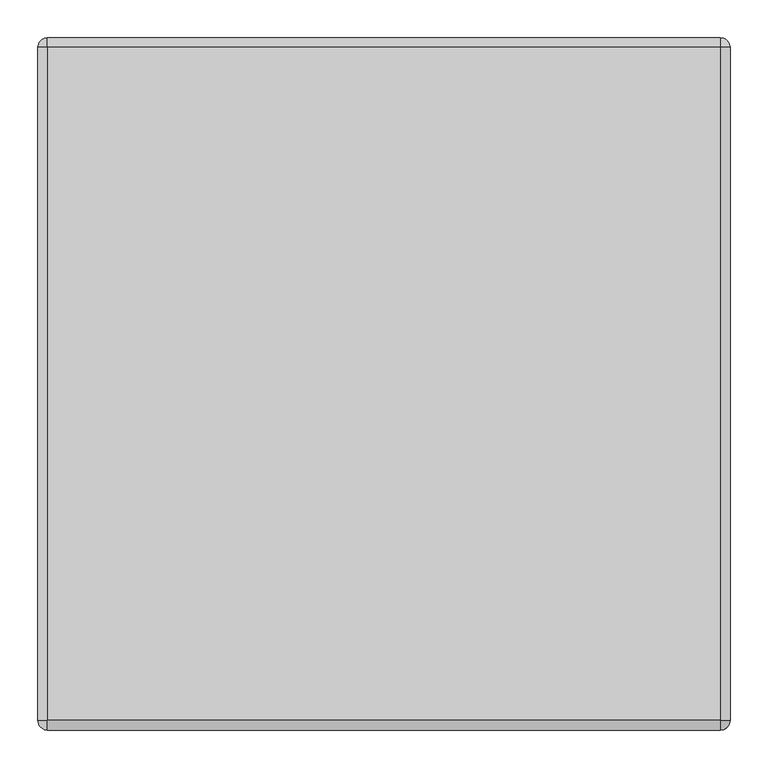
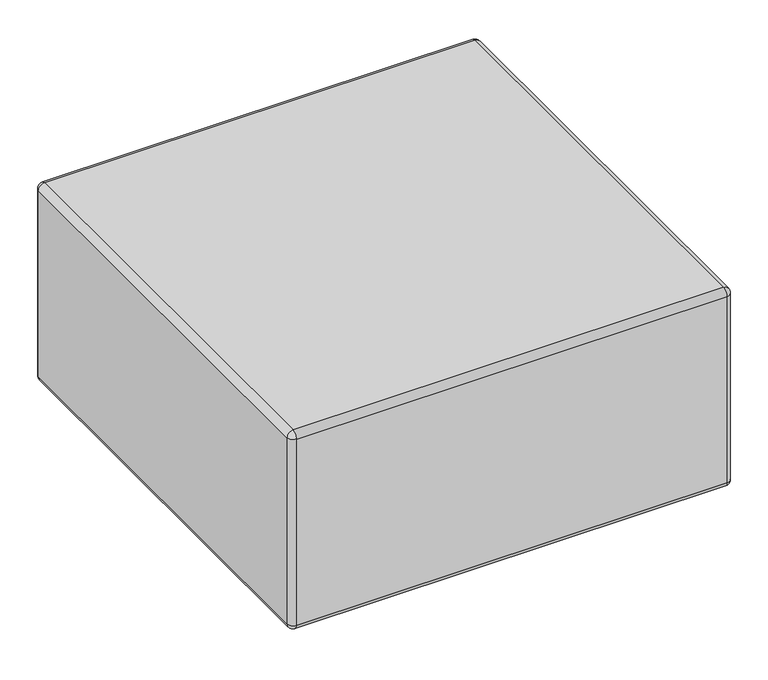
"""IFC4 building model written with IfcOpenShell, lengths in millimetres: furniture geometry."""

from ifc_helpers import new_model, si_unit, point, frame, origin, place, context, project, spatial, polyline, circle_curve, ellipse_curve, trimmed, source, transform, mapped, element, save
from ifc_brep_helpers import plane_surface, cylinder_surface, revolved_surface, advanced_brep


def furniture_133fbe17(model_context):
    return source(origin(), model_context, "Body", "AdvancedBrep", [
        advanced_brep(
        [(-356.8604105, -365.125, 25.4), (-373.3895895, -365.125, 25.4), (-365.125, -365.125, 25.4), (-356.8604105, -365.125, 14.2843611), (-373.3895895, -365.125, 14.2843611), (-358.4623646, -365.125, 14.2843611), (-371.7876354, -365.125, 14.2843611), (-358.4623646, -365.125, 12.7064551), (-371.7876354, -365.125, 12.7064551), (-356.8609329, -365.125, 12.7064551), (-373.3890671, -365.125, 12.7064551), (-347.6758785, -365.125, 3.1950529), (-382.5741215, -365.125, 3.1950529), (-347.6758785, -365.125, 0.0), (-382.5741215, -365.125, 0.0), (-365.125, -365.125, 0.0)],
        [
            (0, 1, circle_curve(frame((-365.125, -365.125, 25.4), z_axis=(0.0, 0.0, 1.0), x_axis=(-1.0, 0.0, 0.0)), 8.2645895)),
            (1, 2),
            (2, 0),
            (1, 0, circle_curve(frame((-365.125, -365.125, 25.4), z_axis=(0.0, 0.0, 1.0), x_axis=(-1.0, 0.0, 0.0)), 8.2645895)),
            (3, 4, circle_curve(frame((-365.125, -365.125, 14.2843611), z_axis=(0.0, 0.0, 1.0), x_axis=(-1.0, 0.0, 0.0)), 8.2645895)),
            (4, 1),
            (0, 3),
            (4, 3, circle_curve(frame((-365.125, -365.125, 14.2843611), z_axis=(0.0, 0.0, 1.0), x_axis=(-1.0, 0.0, 0.0)), 8.2645895)),
            (5, 6, circle_curve(frame((-365.125, -365.125, 14.2843611), z_axis=(0.0, 0.0, 1.0), x_axis=(-1.0, 0.0, 0.0)), 6.6626354)),
            (6, 4),
            (3, 5),
            (6, 5, circle_curve(frame((-365.125, -365.125, 14.2843611), z_axis=(0.0, 0.0, 1.0), x_axis=(-1.0, 0.0, 0.0)), 6.6626354)),
            (7, 8, circle_curve(frame((-365.125, -365.125, 12.7064551), z_axis=(0.0, 0.0, 1.0), x_axis=(-1.0, 0.0, 0.0)), 6.6626354)),
            (8, 6),
            (5, 7),
            (8, 7, circle_curve(frame((-365.125, -365.125, 12.7064551), z_axis=(0.0, 0.0, 1.0), x_axis=(-1.0, 0.0, 0.0)), 6.6626354)),
            (9, 10, circle_curve(frame((-365.125, -365.125, 12.7064551), z_axis=(0.0, 0.0, 1.0), x_axis=(-1.0, 0.0, 0.0)), 8.2640671)),
            (10, 8),
            (7, 9),
            (10, 9, circle_curve(frame((-365.125, -365.125, 12.7064551), z_axis=(0.0, 0.0, 1.0), x_axis=(-1.0, 0.0, 0.0)), 8.2640671)),
            (11, 12, circle_curve(frame((-365.125, -365.125, 3.1950529), z_axis=(0.0, 0.0, 1.0), x_axis=(-1.0, 0.0, 0.0)), 17.4491215)),
            (12, 10),
            (9, 11),
            (12, 11, circle_curve(frame((-365.125, -365.125, 3.1950529), z_axis=(0.0, 0.0, 1.0), x_axis=(-1.0, 0.0, 0.0)), 17.4491215)),
            (13, 14, circle_curve(frame((-365.125, -365.125, 0.0), z_axis=(0.0, 0.0, 1.0), x_axis=(-1.0, 0.0, 0.0)), 17.4491215)),
            (14, 12),
            (11, 13),
            (14, 13, circle_curve(frame((-365.125, -365.125, 0.0), z_axis=(0.0, 0.0, 1.0), x_axis=(-1.0, 0.0, 0.0)), 17.4491215)),
            (15, 14),
            (13, 15),
        ],
        [
            plane_surface(frame((-365.125, -365.125, 25.4), z_axis=(0.0, 0.0, 1.0), x_axis=(-1.0, 0.0, 0.0))),
            cylinder_surface(frame((-365.125, -365.125, 33.820929), z_axis=(0.0, 0.0, -1.0), x_axis=(-1.0, 0.0, 0.0)), 8.2645895),
            plane_surface(frame((-365.125, -365.125, 14.2843611), z_axis=(0.0, 0.0, -1.0), x_axis=(-1.0, 0.0, 0.0))),
            cylinder_surface(frame((-365.125, -365.125, 33.820929), z_axis=(0.0, 0.0, -1.0), x_axis=(-1.0, 0.0, 0.0)), 6.6626354),
            plane_surface(frame((-365.125, -365.125, 12.7064551), z_axis=(0.0, 0.0, 1.0), x_axis=(-1.0, 0.0, 0.0))),
            revolved_surface(polyline([(-373.3890671, -365.125, 12.7064551), (-382.5741215, -365.125, 3.1950529)]), (-365.125, -365.125, 33.820929), (0.0, 0.0, -1.0)),
            cylinder_surface(frame((-365.125, -365.125, 33.820929), z_axis=(0.0, 0.0, -1.0), x_axis=(-1.0, 0.0, 0.0)), 17.4491215),
            plane_surface(frame((-365.125, -365.125, 0.0), z_axis=(0.0, 0.0, -1.0), x_axis=(-1.0, 0.0, 0.0))),
        ],
        [
            (0, [[1, 2, 3]]),
            (0, [[4, -3, -2]]),
            (1, [[5, 6, -1, 7]]),
            (1, [[8, -7, -4, -6]]),
            (2, [[9, 10, -5, 11]]),
            (2, [[12, -11, -8, -10]]),
            (3, [[13, 14, -9, 15]]),
            (3, [[16, -15, -12, -14]]),
            (4, [[17, 18, -13, 19]]),
            (4, [[20, -19, -16, -18]]),
            (5, [[21, 22, -17, 23]]),
            (5, [[24, -23, -20, -22]]),
            (6, [[25, 26, -21, 27]]),
            (6, [[28, -27, -24, -26]]),
            (7, [[29, -25, 30]]),
            (7, [[-30, -28, -29]]),
        ],
    ),
        advanced_brep(
        [(-457.2, 444.5, 444.5), (-457.2, -444.5, 444.5), (-444.5, -444.5, 457.2), (-444.5, 444.5, 457.2), (-457.2, 444.5, 38.1), (-457.2, -444.5, 38.1), (-444.5, 444.5, 25.4), (-444.5, -444.5, 25.4), (-444.5, -457.2, 444.5), (444.5, -457.2, 444.5), (444.5, -444.5, 457.2), (-444.5, -457.2, 38.1), (444.5, -457.2, 38.1), (444.5, -444.5, 25.4), (444.5, 444.5, 457.2), (444.5, 444.5, 25.4), (444.5, 457.2, 444.5), (-444.5, 457.2, 444.5), (444.5, 457.2, 38.1), (-444.5, 457.2, 38.1), (457.2, -444.5, 444.5), (457.2, 444.5, 444.5), (457.2, -444.5, 38.1), (457.2, 444.5, 38.1)],
        [
            (0, 1),
            (1, 2, circle_curve(frame((-444.5, -444.5, 444.5), z_axis=(0.0, 1.0, 0.0), x_axis=(-1.0, 0.0, 0.0)), 12.7)),
            (2, 3),
            (3, 0, circle_curve(frame((-444.5, 444.5, 444.5), z_axis=(0.0, -1.0, 0.0), x_axis=(-1.0, 0.0, 0.0)), 12.7)),
            (0, 4),
            (4, 5),
            (5, 1),
            (4, 6, circle_curve(frame((-444.5, 444.5, 38.1), z_axis=(0.0, -1.0, 0.0), x_axis=(-1.0, 0.0, 0.0)), 12.7)),
            (6, 7),
            (7, 5, circle_curve(frame((-444.5, -444.5, 38.1), z_axis=(0.0, 1.0, 0.0), x_axis=(-1.0, 0.0, 0.0)), 12.7)),
            (8, 9),
            (9, 10, circle_curve(frame((444.5, -444.5, 444.5), z_axis=(-1.0, 0.0, 0.0), x_axis=(0.0, 1.0, 0.0)), 12.7)),
            (10, 2),
            (2, 8, circle_curve(frame((-444.5, -444.5, 444.5), z_axis=(1.0, 0.0, 0.0), x_axis=(0.0, 1.0, 0.0)), 12.7)),
            (8, 11),
            (11, 12),
            (12, 9),
            (11, 7, circle_curve(frame((-444.5, -444.5, 38.1), z_axis=(1.0, 0.0, 0.0), x_axis=(0.0, 1.0, 0.0)), 12.7)),
            (7, 13),
            (13, 12, circle_curve(frame((444.5, -444.5, 38.1), z_axis=(-1.0, 0.0, 0.0), x_axis=(0.0, 1.0, 0.0)), 12.7)),
            (10, 14),
            (14, 3),
            (6, 15),
            (15, 13),
            (16, 17),
            (17, 3, circle_curve(frame((-444.5, 444.5, 444.5), z_axis=(1.0, 0.0, 0.0), x_axis=(0.0, 1.0, 0.0)), 12.7)),
            (14, 16, circle_curve(frame((444.5, 444.5, 444.5), z_axis=(-1.0, 0.0, 0.0), x_axis=(0.0, 1.0, 0.0)), 12.7)),
            (16, 18),
            (18, 19),
            (19, 17),
            (18, 15, circle_curve(frame((444.5, 444.5, 38.1), z_axis=(-1.0, 0.0, 0.0), x_axis=(0.0, 1.0, 0.0)), 12.7)),
            (6, 19, circle_curve(frame((-444.5, 444.5, 38.1), z_axis=(1.0, 0.0, 0.0), x_axis=(0.0, 1.0, 0.0)), 12.7)),
            (20, 21),
            (21, 14, circle_curve(frame((444.5, 444.5, 444.5), z_axis=(0.0, -1.0, 0.0), x_axis=(-1.0, 0.0, 0.0)), 12.7)),
            (10, 20, circle_curve(frame((444.5, -444.5, 444.5), z_axis=(0.0, 1.0, 0.0), x_axis=(-1.0, 0.0, 0.0)), 12.7)),
            (20, 22),
            (22, 23),
            (23, 21),
            (22, 13, circle_curve(frame((444.5, -444.5, 38.1), z_axis=(0.0, 1.0, 0.0), x_axis=(-1.0, 0.0, 0.0)), 12.7)),
            (15, 23, circle_curve(frame((444.5, 444.5, 38.1), z_axis=(0.0, -1.0, 0.0), x_axis=(-1.0, 0.0, 0.0)), 12.7)),
            (19, 4, circle_curve(frame((-444.5, 444.5, 38.1), z_axis=(0.0, 0.0, 1.0), x_axis=(-1.0, 0.0, 0.0)), 12.7)),
            (0, 17, circle_curve(frame((-444.5, 444.5, 444.5), z_axis=(0.0, 0.0, -1.0), x_axis=(-1.0, 0.0, 0.0)), 12.7)),
            (8, 1, circle_curve(frame((-444.5, -444.5, 444.5), z_axis=(0.0, 0.0, -1.0), x_axis=(-1.0, 0.0, 0.0)), 12.7)),
            (5, 11, circle_curve(frame((-444.5, -444.5, 38.1), z_axis=(0.0, 0.0, 1.0), x_axis=(-1.0, 0.0, 0.0)), 12.7)),
            (12, 22, circle_curve(frame((444.5, -444.5, 38.1), z_axis=(0.0, 0.0, 1.0), x_axis=(1.0, 0.0, 0.0)), 12.7)),
            (20, 9, circle_curve(frame((444.5, -444.5, 444.5), z_axis=(0.0, 0.0, -1.0), x_axis=(1.0, 0.0, 0.0)), 12.7)),
            (16, 21, circle_curve(frame((444.5, 444.5, 444.5), z_axis=(0.0, 0.0, -1.0), x_axis=(1.0, 0.0, 0.0)), 12.7)),
            (23, 18, circle_curve(frame((444.5, 444.5, 38.1), z_axis=(0.0, 0.0, 1.0), x_axis=(1.0, 0.0, 0.0)), 12.7)),
        ],
        [
            cylinder_surface(frame((-444.5, -444.5, 444.5), z_axis=(0.0, -1.0, 0.0), x_axis=(-1.0, 0.0, 0.0)), 12.7),
            plane_surface(frame((-457.2, -444.5, 444.5), z_axis=(-1.0, 0.0, 0.0), x_axis=(0.0, 1.0, 0.0))),
            cylinder_surface(frame((-444.5, -444.5, 38.1), z_axis=(0.0, -1.0, 0.0), x_axis=(-1.0, 0.0, 0.0)), 12.7),
            cylinder_surface(frame((-444.5, -444.5, 444.5), z_axis=(-1.0, 0.0, 0.0), x_axis=(0.0, 1.0, 0.0)), 12.7),
            plane_surface(frame((-444.5, -457.2, 38.1), z_axis=(0.0, -1.0, 0.0), x_axis=(1.0, 0.0, 0.0))),
            cylinder_surface(frame((-444.5, -444.5, 38.1), z_axis=(-1.0, 0.0, 0.0), x_axis=(0.0, 1.0, 0.0)), 12.7),
            plane_surface(frame((-444.5, 444.5, 457.2), z_axis=(0.0, 0.0, 1.0), x_axis=(-1.0, 0.0, 0.0))),
            plane_surface(frame((-444.5, 444.5, 25.4), z_axis=(0.0, 0.0, -1.0), x_axis=(1.0, 0.0, 0.0))),
            cylinder_surface(frame((-444.5, 444.5, 444.5), z_axis=(-1.0, 0.0, 0.0), x_axis=(0.0, 1.0, 0.0)), 12.7),
            plane_surface(frame((-444.5, 457.2, 444.5), z_axis=(0.0, 1.0, 0.0), x_axis=(1.0, 0.0, 0.0))),
            cylinder_surface(frame((-444.5, 444.5, 38.1), z_axis=(-1.0, 0.0, 0.0), x_axis=(0.0, 1.0, 0.0)), 12.7),
            cylinder_surface(frame((444.5, -444.5, 444.5), z_axis=(0.0, -1.0, 0.0), x_axis=(-1.0, 0.0, 0.0)), 12.7),
            plane_surface(frame((457.2, -444.5, 38.1), z_axis=(1.0, 0.0, 0.0), x_axis=(0.0, 1.0, 0.0))),
            cylinder_surface(frame((444.5, -444.5, 38.1), z_axis=(0.0, -1.0, 0.0), x_axis=(-1.0, 0.0, 0.0)), 12.7),
            cylinder_surface(frame((-444.5, 444.5, 457.2), z_axis=(0.0, 0.0, 1.0), x_axis=(-1.0, 0.0, 0.0)), 12.7),
            revolved_surface(trimmed(ellipse_curve(frame((-444.5, 444.5, 38.1), z_axis=(0.0, 1.0, 0.0), x_axis=(0.0, 0.0, 1.0)), 12.7, 12.7), [point((-444.5, 444.5, 25.4))], [point((-457.2, 444.5, 38.1))], True, "CARTESIAN"), (-444.5, 444.5, 457.2), (0.0, 0.0, 1.0)),
            revolved_surface(trimmed(ellipse_curve(frame((-444.5, 444.5, 444.5), z_axis=(0.0, 1.0, 0.0), x_axis=(0.0, 0.0, 1.0)), 12.7, 12.7), [point((-457.2, 444.5, 444.5))], [point((-444.5, 444.5, 457.2))], True, "CARTESIAN"), (-444.5, 444.5, 457.2), (0.0, 0.0, 1.0)),
            cylinder_surface(frame((-444.5, -444.5, 306.9189642), z_axis=(0.0, 0.0, -1.0), x_axis=(-1.0, 0.0, 0.0)), 12.7),
            revolved_surface(trimmed(ellipse_curve(frame((-444.5, -444.5, 444.5), z_axis=(0.0, -1.0, 0.0), x_axis=(1.0, 0.0, 0.0)), 12.7, 12.7), [point((-444.5, -444.5, 457.2))], [point((-457.2, -444.5, 444.5))], True, "CARTESIAN"), (-444.5, -444.5, 306.9189642), (0.0, 0.0, -1.0)),
            revolved_surface(trimmed(ellipse_curve(frame((-444.5, -444.5, 38.1), z_axis=(0.0, -1.0, 0.0), x_axis=(1.0, 0.0, 0.0)), 12.7, 12.7), [point((-457.2, -444.5, 38.1))], [point((-444.5, -444.5, 25.4))], True, "CARTESIAN"), (-444.5, -444.5, 306.9189642), (0.0, 0.0, -1.0)),
            cylinder_surface(frame((444.5, -444.5, 457.2), z_axis=(0.0, 0.0, 1.0), x_axis=(1.0, 0.0, 0.0)), 12.7),
            revolved_surface(trimmed(ellipse_curve(frame((444.5, -444.5, 38.1), z_axis=(0.0, -1.0, 0.0), x_axis=(1.0, 0.0, 0.0)), 12.7, 12.7), [point((444.5, -444.5, 25.4))], [point((457.2, -444.5, 38.1))], True, "CARTESIAN"), (444.5, -444.5, 457.2), (0.0, 0.0, 1.0)),
            revolved_surface(trimmed(ellipse_curve(frame((444.5, -444.5, 444.5), z_axis=(0.0, -1.0, 0.0), x_axis=(1.0, 0.0, 0.0)), 12.7, 12.7), [point((457.2, -444.5, 444.5))], [point((444.5, -444.5, 457.2))], True, "CARTESIAN"), (444.5, -444.5, 457.2), (0.0, 0.0, 1.0)),
            cylinder_surface(frame((444.5, 444.5, 306.9189642), z_axis=(0.0, 0.0, -1.0), x_axis=(1.0, 0.0, 0.0)), 12.7),
            revolved_surface(trimmed(ellipse_curve(frame((444.5, 444.5, 444.5), z_axis=(0.0, 1.0, 0.0), x_axis=(0.0, 0.0, 1.0)), 12.7, 12.7), [point((444.5, 444.5, 457.2))], [point((457.2, 444.5, 444.5))], True, "CARTESIAN"), (444.5, 444.5, 306.9189642), (0.0, 0.0, -1.0)),
            revolved_surface(trimmed(ellipse_curve(frame((444.5, 444.5, 38.1), z_axis=(0.0, 1.0, 0.0), x_axis=(0.0, 0.0, 1.0)), 12.7, 12.7), [point((457.2, 444.5, 38.1))], [point((444.5, 444.5, 25.4))], True, "CARTESIAN"), (444.5, 444.5, 306.9189642), (0.0, 0.0, -1.0)),
        ],
        [
            (0, [[1, 2, 3, 4]]),
            (1, [[-1, 5, 6, 7]]),
            (2, [[-6, 8, 9, 10]]),
            (3, [[11, 12, 13, 14]]),
            (4, [[-11, 15, 16, 17]]),
            (5, [[-16, 18, 19, 20]]),
            (6, [[-3, -13, 21, 22]]),
            (7, [[-9, 23, 24, -19]]),
            (8, [[25, 26, -22, 27]]),
            (9, [[-25, 28, 29, 30]]),
            (10, [[-29, 31, -23, 32]]),
            (11, [[33, 34, -21, 35]]),
            (12, [[-33, 36, 37, 38]]),
            (13, [[-37, 39, -24, 40]]),
            (14, [[41, -5, 42, -30]]),
            (15, [[-41, -32, -8]]),
            (16, [[-42, -4, -26]]),
            (17, [[43, -7, 44, -15]]),
            (18, [[-43, -14, -2]]),
            (19, [[-44, -10, -18]]),
            (20, [[45, -36, 46, -17]]),
            (21, [[-45, -20, -39]]),
            (22, [[-46, -35, -12]]),
            (23, [[47, -38, 48, -28]]),
            (24, [[-47, -27, -34]]),
            (25, [[-48, -40, -31]]),
        ],
    ),
    ])


if __name__ == "__main__":
    model = new_model("IFC4")
    model_context = context("Model", 3, world=origin())
    ifc_project = project(units=[si_unit("LENGTHUNIT", "METRE", prefix="MILLI")], contexts=[model_context])
    site = spatial("IfcSite", under=ifc_project)
    building = spatial("IfcBuilding", under=site)
    placement = place(None, origin())
    furniture_shape = furniture_133fbe17(model_context)
    element("IfcFurniture", 1, at=placement, inside=building, context=model_context, shape_type="MappedRepresentation", body=[
        mapped(furniture_shape, transform((0.0, 0.0, 0.0), x_axis=(1.0, 0.0, 0.0), y_axis=(0.0, 1.0, 0.0), z_axis=(0.0, 0.0, 1.0))),
    ])
    save(model, "model.ifc")
